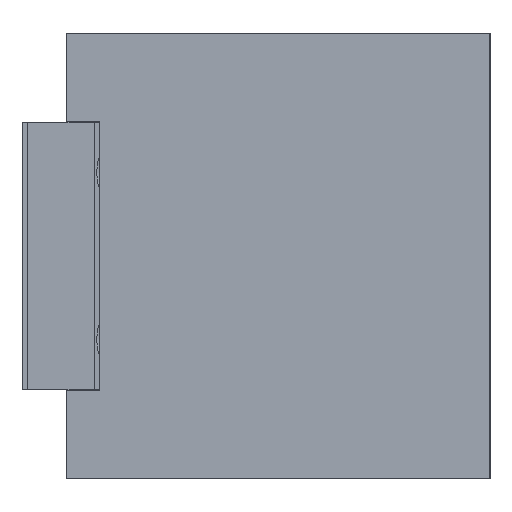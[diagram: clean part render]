
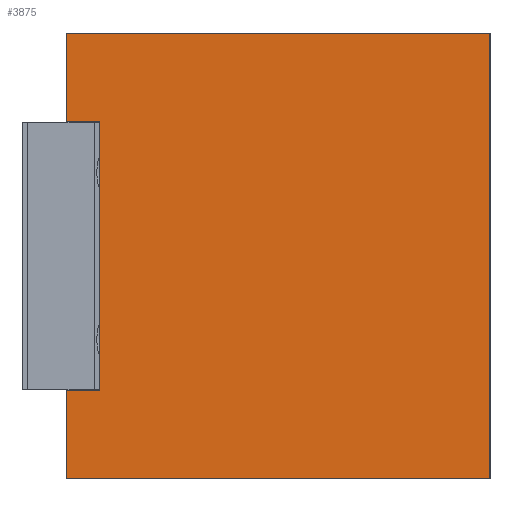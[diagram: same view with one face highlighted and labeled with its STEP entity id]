
A CAD part, left-side view. The second image highlights one B-rep face of the part: STEP entity #3875.
In plain terms, the highlighted planar face has unit normal (-1, 0, 0).
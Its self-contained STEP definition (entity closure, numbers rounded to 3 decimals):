
#6 = VERTEX_POINT ( 'NONE', #403 ) ;
#28 = DIRECTION ( 'NONE',  ( 0., 0., 1. ) ) ;
#52 = LINE ( 'NONE', #2962, #4985 ) ;
#106 = VECTOR ( 'NONE', #2658, 1000. ) ;
#149 = VERTEX_POINT ( 'NONE', #1516 ) ;
#403 = CARTESIAN_POINT ( 'NONE',  ( 0., 35., -32.1 ) ) ;
#424 = VECTOR ( 'NONE', #4137, 1000. ) ;
#458 = EDGE_CURVE ( 'NONE', #2429, #561, #4407, .T. ) ;
#561 = VERTEX_POINT ( 'NONE', #5059 ) ;
#565 = ORIENTED_EDGE ( 'NONE', *, *, #3145, .F. ) ;
#619 = EDGE_CURVE ( 'NONE', #959, #5578, #4219, .T. ) ;
#725 = EDGE_CURVE ( 'NONE', #1148, #2429, #6176, .T. ) ;
#786 = CARTESIAN_POINT ( 'NONE',  ( 0., 0., -40. ) ) ;
#959 = VERTEX_POINT ( 'NONE', #4284 ) ;
#1054 = DIRECTION ( 'NONE',  ( 0., 1., 0. ) ) ;
#1129 = PLANE ( 'NONE',  #5491 ) ;
#1148 = VERTEX_POINT ( 'NONE', #2748 ) ;
#1179 = VECTOR ( 'NONE', #5535, 1000. ) ;
#1235 = FACE_OUTER_BOUND ( 'NONE', #3770, .T. ) ;
#1257 = CARTESIAN_POINT ( 'NONE',  ( 0., 35., -7.9 ) ) ;
#1303 = DIRECTION ( 'NONE',  ( 0., -1., 0. ) ) ;
#1516 = CARTESIAN_POINT ( 'NONE',  ( 0., 0., -40. ) ) ;
#1606 = DIRECTION ( 'NONE',  ( 0., 0., 1. ) ) ;
#1867 = DIRECTION ( 'NONE',  ( 0., 1., 0. ) ) ;
#1968 = ORIENTED_EDGE ( 'NONE', *, *, #458, .F. ) ;
#2045 = CARTESIAN_POINT ( 'NONE',  ( 0., 0., 0. ) ) ;
#2429 = VERTEX_POINT ( 'NONE', #4024 ) ;
#2432 = CARTESIAN_POINT ( 'NONE',  ( 0., 35., -32.1 ) ) ;
#2562 = CARTESIAN_POINT ( 'NONE',  ( 0., 0., -40. ) ) ;
#2658 = DIRECTION ( 'NONE',  ( 0., 0., 1. ) ) ;
#2748 = CARTESIAN_POINT ( 'NONE',  ( 0., 38., -7.9 ) ) ;
#2855 = EDGE_CURVE ( 'NONE', #6, #4238, #4180, .T. ) ;
#2962 = CARTESIAN_POINT ( 'NONE',  ( 0., 35., -32.1 ) ) ;
#2994 = VECTOR ( 'NONE', #5380, 1000. ) ;
#3027 = EDGE_CURVE ( 'NONE', #959, #149, #5372, .T. ) ;
#3145 = EDGE_CURVE ( 'NONE', #4238, #1148, #3806, .T. ) ;
#3698 = ORIENTED_EDGE ( 'NONE', *, *, #5301, .T. ) ;
#3770 = EDGE_LOOP ( 'NONE', ( #3698, #5516, #4857, #4808, #1968, #5885, #565, #4141 ) ) ;
#3772 = CARTESIAN_POINT ( 'NONE',  ( 0., 35., -7.9 ) ) ;
#3806 = LINE ( 'NONE', #3772, #5890 ) ;
#3875 = ADVANCED_FACE ( 'NONE', ( #1235 ), #1129, .T. ) ;
#4016 = VECTOR ( 'NONE', #28, 1000. ) ;
#4024 = CARTESIAN_POINT ( 'NONE',  ( 0., 38., 0. ) ) ;
#4048 = CARTESIAN_POINT ( 'NONE',  ( 0., 38., -40. ) ) ;
#4137 = DIRECTION ( 'NONE',  ( 0., 0., 1. ) ) ;
#4141 = ORIENTED_EDGE ( 'NONE', *, *, #2855, .F. ) ;
#4180 = LINE ( 'NONE', #2432, #4016 ) ;
#4219 = LINE ( 'NONE', #4632, #424 ) ;
#4238 = VERTEX_POINT ( 'NONE', #1257 ) ;
#4256 = VECTOR ( 'NONE', #1303, 1000. ) ;
#4284 = CARTESIAN_POINT ( 'NONE',  ( 0., 38., -40. ) ) ;
#4407 = LINE ( 'NONE', #2045, #2994 ) ;
#4453 = DIRECTION ( 'NONE',  ( -1., 0., 0. ) ) ;
#4632 = CARTESIAN_POINT ( 'NONE',  ( 0., 38., -40. ) ) ;
#4644 = CARTESIAN_POINT ( 'NONE',  ( 0., 0., -40. ) ) ;
#4808 = ORIENTED_EDGE ( 'NONE', *, *, #4853, .T. ) ;
#4853 = EDGE_CURVE ( 'NONE', #149, #561, #6118, .T. ) ;
#4857 = ORIENTED_EDGE ( 'NONE', *, *, #3027, .T. ) ;
#4985 = VECTOR ( 'NONE', #1054, 1000. ) ;
#5059 = CARTESIAN_POINT ( 'NONE',  ( 0., 0., 0. ) ) ;
#5301 = EDGE_CURVE ( 'NONE', #6, #5578, #52, .T. ) ;
#5359 = CARTESIAN_POINT ( 'NONE',  ( 0., 38., -32.1 ) ) ;
#5372 = LINE ( 'NONE', #4644, #4256 ) ;
#5380 = DIRECTION ( 'NONE',  ( 0., -1., 0. ) ) ;
#5491 = AXIS2_PLACEMENT_3D ( 'NONE', #2562, #4453, #1606 ) ;
#5516 = ORIENTED_EDGE ( 'NONE', *, *, #619, .F. ) ;
#5535 = DIRECTION ( 'NONE',  ( 0., 0., 1. ) ) ;
#5578 = VERTEX_POINT ( 'NONE', #5359 ) ;
#5885 = ORIENTED_EDGE ( 'NONE', *, *, #725, .F. ) ;
#5890 = VECTOR ( 'NONE', #1867, 1000. ) ;
#6118 = LINE ( 'NONE', #786, #1179 ) ;
#6176 = LINE ( 'NONE', #4048, #106 ) ;
